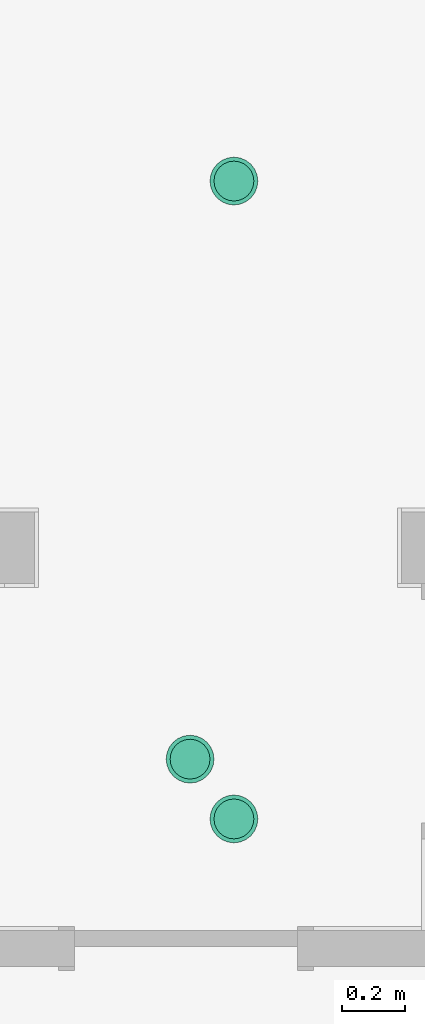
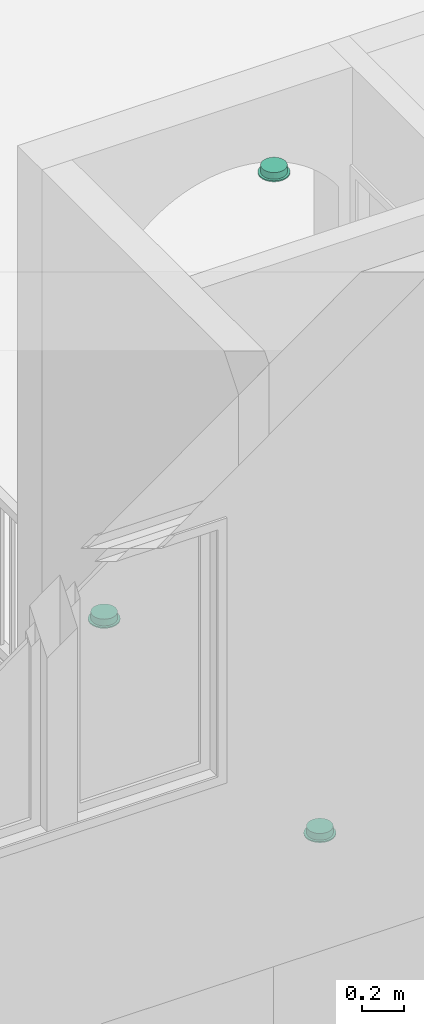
# One storey, part 42 of 81: 3 flow terminals.
"""IFC2X3 building model written with IfcOpenShell, lengths in feet."""

from ifc_helpers import new_model, entity, si_unit, converted_unit, derived_unit, direction, frame, origin, place, context, subcontext, project, spatial, faceted_brep, source, transform, mapped, material, material_list, type_object, type_shapes, element, save


model = new_model("IFC2X3")

# Units and contexts
model_context = context("Model", 3, precision=0.0001, world=origin(), true_north=direction((6.12303176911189e-17, 1.0)))
body_context = subcontext(model_context, "Body", "Model", "MODEL_VIEW")
ifc_project = project(units=[converted_unit("LENGTHUNIT", "FOOT", entity("IfcRatioMeasure", 0.3048), si_unit("LENGTHUNIT", "METRE"), dimensions=[1, 0, 0, 0, 0, 0, 0]), converted_unit("AREAUNIT", "SQUARE FOOT", entity("IfcRatioMeasure", 0.09290304), si_unit("AREAUNIT", "SQUARE_METRE"), dimensions=[2, 0, 0, 0, 0, 0, 0]), converted_unit("VOLUMEUNIT", "CUBIC FOOT", entity("IfcRatioMeasure", 0.028316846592), si_unit("VOLUMEUNIT", "CUBIC_METRE"), dimensions=[3, 0, 0, 0, 0, 0, 0]), converted_unit("PLANEANGLEUNIT", "DEGREE", entity("IfcRatioMeasure", 0.0174532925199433), si_unit("PLANEANGLEUNIT", "RADIAN"), dimensions=[0, 0, 0, 0, 0, 0, 0]), si_unit("MASSUNIT", "GRAM", prefix="KILO"), derived_unit("MASSDENSITYUNIT", [(si_unit("MASSUNIT", "GRAM", prefix="KILO"), 1), (si_unit("LENGTHUNIT", "METRE"), -3)]), derived_unit("MOMENTOFINERTIAUNIT", [(si_unit("LENGTHUNIT", "METRE"), 4)]), si_unit("TIMEUNIT", "SECOND"), si_unit("FREQUENCYUNIT", "HERTZ"), si_unit("THERMODYNAMICTEMPERATUREUNIT", "DEGREE_CELSIUS"), derived_unit("THERMALTRANSMITTANCEUNIT", [(si_unit("MASSUNIT", "GRAM", prefix="KILO"), 1), (si_unit("THERMODYNAMICTEMPERATUREUNIT", "KELVIN"), -1), (si_unit("TIMEUNIT", "SECOND"), -3)]), derived_unit("VOLUMETRICFLOWRATEUNIT", [(si_unit("LENGTHUNIT", "METRE"), 3), (si_unit("TIMEUNIT", "SECOND"), -1)]), si_unit("ELECTRICCURRENTUNIT", "AMPERE"), si_unit("ELECTRICVOLTAGEUNIT", "VOLT"), si_unit("POWERUNIT", "WATT"), si_unit("FORCEUNIT", "NEWTON"), si_unit("ILLUMINANCEUNIT", "LUX"), si_unit("LUMINOUSFLUXUNIT", "LUMEN"), si_unit("LUMINOUSINTENSITYUNIT", "CANDELA"), derived_unit("USERDEFINED", [(si_unit("MASSUNIT", "GRAM", prefix="KILO"), -1), (si_unit("LENGTHUNIT", "METRE"), -2), (si_unit("TIMEUNIT", "SECOND"), 3), (si_unit("LUMINOUSFLUXUNIT", "LUMEN"), 1)]), derived_unit("LINEARVELOCITYUNIT", [(si_unit("LENGTHUNIT", "METRE"), 1), (si_unit("TIMEUNIT", "SECOND"), -1)]), si_unit("PRESSUREUNIT", "PASCAL"), derived_unit("USERDEFINED", [(si_unit("LENGTHUNIT", "METRE"), -2), (si_unit("MASSUNIT", "GRAM", prefix="KILO"), 1), (si_unit("TIMEUNIT", "SECOND"), -2)]), derived_unit("LINEARFORCEUNIT", [(si_unit("MASSUNIT", "GRAM", prefix="KILO"), 1), (si_unit("LENGTHUNIT", "METRE"), 1), (si_unit("TIMEUNIT", "SECOND"), -2), (si_unit("LENGTHUNIT", "METRE"), -1)]), derived_unit("PLANARFORCEUNIT", [(si_unit("MASSUNIT", "GRAM", prefix="KILO"), 1), (si_unit("LENGTHUNIT", "METRE"), 1), (si_unit("TIMEUNIT", "SECOND"), -2), (si_unit("LENGTHUNIT", "METRE"), -2)])], contexts=[model_context])

# Site, building, storey
site_placement = place(None, origin())
site = spatial("IfcSite", under=ifc_project, at=site_placement, Name="Default", CompositionType="ELEMENT")
building_placement = place(site_placement, origin())
building = spatial("IfcBuilding", under=site, at=building_placement, CompositionType="ELEMENT")
storey_placement = place(building_placement, origin())
storey = spatial("IfcBuildingStorey", under=building, at=storey_placement, Name="First floor", CompositionType="ELEMENT", Elevation=0.0)

# Flow terminals
ifc_material_1 = material(Name="Default New Material")
ifc_material_2 = material(Name="Glass, White, High Luminance")
ifc_material_list_1 = material_list([ifc_material_1, ifc_material_2])
ifc_material_list_2 = material_list([ifc_material_1, ifc_material_2])
light_fixture_type = type_object("IfcLightFixtureType", Name="M_Recessed Lamp - Round - LED:Light 2", PredefinedType="NOTDEFINED", material=ifc_material_list_2)
shared_shape = source(origin(), body_context, "Body", "Brep", [
    faceted_brep([(-0.124999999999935, 0.216506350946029, 0.0208333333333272), (-0.176776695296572, 0.176776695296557, 0.0208333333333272), (-0.0833333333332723, 0.144337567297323, 0.0208333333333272), (-0.0431365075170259, 0.160987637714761, 0.0208333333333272), (-0.0647047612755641, 0.241481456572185, 0.0208333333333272), (-0.117851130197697, 0.117851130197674, 0.0208333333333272), (-0.216506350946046, 0.12499999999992, 0.0208333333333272), (-0.144337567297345, 0.0833333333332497, 0.0208333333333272), (-0.160987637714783, 0.0431365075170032, 0.0208333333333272), (-0.241481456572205, 0.0647047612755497, 0.0208333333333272), (-0.166666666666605, 0.0, 0.0208333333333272), (-0.249999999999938, 0.0, 0.0208333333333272), (-0.160987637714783, -0.0431365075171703, 0.0208333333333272), (-0.241481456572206, -0.0647047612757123, 0.0208333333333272), (-0.144337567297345, -0.0833333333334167, 0.0208333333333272), (-0.216506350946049, -0.125000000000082, 0.0208333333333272), (-0.117851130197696, -0.117851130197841, 0.0208333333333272), (-0.176776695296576, -0.176776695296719, 0.0208333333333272), (-0.0833333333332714, -0.14433756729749, 0.0208333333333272), (-0.12499999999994, -0.216506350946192, 0.0208333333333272), (-0.0431365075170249, -0.160987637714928, 0.0208333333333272), (-0.0647047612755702, -0.24148145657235, 0.0208333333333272), (0.0, -0.16666666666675, 0.0208333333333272), (0.0, -0.250000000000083, 0.0208333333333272), (0.0431365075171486, -0.160987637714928, 0.0208333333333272), (0.0647047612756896, -0.241481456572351, 0.0208333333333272), (0.0833333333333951, -0.144337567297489, 0.0208333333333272), (0.12500000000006, -0.216506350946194, 0.0208333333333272), (0.11785113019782, -0.117851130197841, 0.0208333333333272), (0.176776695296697, -0.176776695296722, 0.0208333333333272), (0.144337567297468, -0.0833333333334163, 0.0208333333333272), (0.21650635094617, -0.125000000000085, 0.0208333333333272), (0.241481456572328, -0.0647047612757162, 0.0208333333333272), (0.160987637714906, -0.0431365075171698, 0.0208333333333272), (0.250000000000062, 0.0, 0.0208333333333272), (0.166666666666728, 0.0, 0.0208333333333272), (0.241481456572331, 0.06470476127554, 0.0208333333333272), (0.160987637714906, 0.0431365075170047, 0.0208333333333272), (0.216506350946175, 0.124999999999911, 0.0208333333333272), (0.144337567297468, 0.0833333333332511, 0.0208333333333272), (0.176776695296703, 0.176776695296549, 0.0208333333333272), (0.117851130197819, 0.117851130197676, 0.0208333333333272), (0.125000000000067, 0.216506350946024, 0.0208333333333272), (0.0833333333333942, 0.144337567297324, 0.0208333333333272), (0.0647047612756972, 0.241481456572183, 0.0208333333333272), (0.0431365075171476, 0.160987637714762, 0.0208333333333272), (0.0, 0.249999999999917, 0.0208333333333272), (0.0, 0.166666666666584, 0.0208333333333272), (-0.12499999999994, -0.216506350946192, 0.0), (-0.176776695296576, -0.176776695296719, 0.0), (-0.0833333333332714, -0.14433756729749, 0.0), (-0.0431365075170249, -0.160987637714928, 0.0), (-0.0647047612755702, -0.24148145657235, 0.0), (-0.117851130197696, -0.117851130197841, 0.0), (-0.216506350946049, -0.125000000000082, 0.0), (-0.144337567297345, -0.0833333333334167, 0.0), (-0.160987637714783, -0.0431365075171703, 0.0), (-0.241481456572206, -0.0647047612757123, 0.0), (-0.166666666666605, 0.0, 0.0), (-0.249999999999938, 0.0, 0.0), (-0.160987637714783, 0.0431365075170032, 0.0), (-0.241481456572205, 0.0647047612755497, 0.0), (-0.144337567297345, 0.0833333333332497, 0.0), (-0.216506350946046, 0.12499999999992, 0.0), (-0.117851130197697, 0.117851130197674, 0.0), (-0.176776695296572, 0.176776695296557, 0.0), (-0.0833333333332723, 0.144337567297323, 0.0), (-0.124999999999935, 0.216506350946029, 0.0), (-0.0431365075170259, 0.160987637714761, 0.0), (-0.0647047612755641, 0.241481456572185, 0.0), (0.0, 0.166666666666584, 0.0), (0.0, 0.249999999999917, 0.0), (0.0431365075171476, 0.160987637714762, 0.0), (0.0647047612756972, 0.241481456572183, 0.0), (0.0833333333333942, 0.144337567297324, 0.0), (0.125000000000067, 0.216506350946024, 0.0), (0.117851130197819, 0.117851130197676, 0.0), (0.176776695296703, 0.176776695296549, 0.0), (0.144337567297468, 0.0833333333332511, 0.0), (0.216506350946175, 0.124999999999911, 0.0), (0.241481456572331, 0.06470476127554, 0.0), (0.160987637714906, 0.0431365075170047, 0.0), (0.250000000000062, 0.0, 0.0), (0.166666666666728, 0.0, 0.0), (0.241481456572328, -0.0647047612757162, 0.0), (0.160987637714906, -0.0431365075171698, 0.0), (0.21650635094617, -0.125000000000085, 0.0), (0.144337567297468, -0.0833333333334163, 0.0), (0.176776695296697, -0.176776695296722, 0.0), (0.11785113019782, -0.117851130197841, 0.0), (0.12500000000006, -0.216506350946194, 0.0), (0.0833333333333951, -0.144337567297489, 0.0), (0.0647047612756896, -0.241481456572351, 0.0), (0.0431365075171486, -0.160987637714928, 0.0), (0.0, -0.250000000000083, 0.0), (0.0, -0.16666666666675, 0.0)], [[[0, 1, 2]], [[0, 2, 3]], [[3, 4, 0]], [[2, 1, 5]], [[6, 5, 1]], [[7, 5, 6]], [[8, 7, 6]], [[8, 6, 9]], [[8, 9, 10]], [[10, 9, 11]], [[12, 10, 11]], [[12, 11, 13]], [[14, 12, 13]], [[14, 13, 15]], [[16, 14, 15]], [[15, 17, 16]], [[17, 18, 16]], [[18, 17, 19]], [[18, 19, 20]], [[21, 20, 19]], [[20, 21, 22]], [[22, 21, 23]], [[23, 24, 22]], [[24, 23, 25]], [[24, 25, 26]], [[27, 26, 25]], [[27, 28, 26]], [[27, 29, 28]], [[30, 28, 29]], [[31, 30, 29]], [[32, 30, 31]], [[33, 30, 32]], [[33, 32, 34]], [[34, 35, 33]], [[36, 35, 34]], [[36, 37, 35]], [[37, 36, 38]], [[39, 37, 38]], [[39, 38, 40]], [[39, 40, 41]], [[40, 42, 41]], [[41, 42, 43]], [[43, 42, 44]], [[44, 45, 43]], [[46, 45, 44]], [[4, 47, 46]], [[45, 46, 47]], [[4, 3, 47]], [[48, 49, 50]], [[48, 50, 51]], [[51, 52, 48]], [[50, 49, 53]], [[54, 53, 49]], [[55, 53, 54]], [[56, 55, 54]], [[56, 54, 57]], [[56, 57, 58]], [[58, 57, 59]], [[60, 58, 59]], [[60, 59, 61]], [[62, 60, 61]], [[62, 61, 63]], [[64, 62, 63]], [[63, 65, 64]], [[65, 66, 64]], [[66, 65, 67]], [[66, 67, 68]], [[69, 68, 67]], [[68, 69, 70]], [[70, 69, 71]], [[71, 72, 70]], [[72, 71, 73]], [[72, 73, 74]], [[75, 74, 73]], [[75, 76, 74]], [[75, 77, 76]], [[78, 76, 77]], [[79, 78, 77]], [[80, 78, 79]], [[81, 78, 80]], [[81, 80, 82]], [[82, 83, 81]], [[84, 83, 82]], [[84, 85, 83]], [[85, 84, 86]], [[87, 85, 86]], [[87, 86, 88]], [[87, 88, 89]], [[88, 90, 89]], [[89, 90, 91]], [[91, 90, 92]], [[92, 93, 91]], [[94, 93, 92]], [[52, 95, 94]], [[93, 94, 95]], [[52, 51, 95]], [[10, 58, 60, 8]], [[8, 60, 62, 7]], [[2, 5, 64, 66]], [[62, 64, 5, 7]], [[3, 2, 66, 68]], [[70, 47, 3, 68]], [[45, 72, 74, 43]], [[43, 74, 76, 41]], [[37, 39, 78, 81]], [[76, 78, 39, 41]], [[35, 37, 81, 83]], [[45, 47, 70, 72]], [[35, 83, 85, 33]], [[33, 85, 87, 30]], [[26, 28, 89, 91]], [[87, 89, 28, 30]], [[24, 26, 91, 93]], [[95, 22, 24, 93]], [[20, 51, 50, 18]], [[18, 50, 53, 16]], [[12, 14, 55, 56]], [[53, 55, 14, 16]], [[10, 12, 56, 58]], [[20, 22, 95, 51]], [[57, 13, 11, 59]], [[54, 15, 13, 57]], [[19, 17, 49, 48]], [[54, 49, 17, 15]], [[21, 19, 48, 52]], [[23, 21, 52, 94]], [[92, 25, 23, 94]], [[90, 27, 25, 92]], [[31, 29, 88, 86]], [[90, 88, 29, 27]], [[32, 31, 86, 84]], [[34, 32, 84, 82]], [[80, 36, 34, 82]], [[79, 38, 36, 80]], [[42, 40, 77, 75]], [[79, 77, 40, 38]], [[44, 42, 75, 73]], [[46, 44, 73, 71]], [[69, 4, 46, 71]], [[67, 0, 4, 69]], [[6, 1, 65, 63]], [[67, 65, 1, 0]], [[9, 6, 63, 61]], [[11, 9, 61, 59]]]),
    faceted_brep([(0.0431365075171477, -0.160987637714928, 0.0208333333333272), (0.0833333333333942, -0.14433756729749, 0.0208333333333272), (0.117851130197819, -0.117851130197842, 0.0208333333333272), (0.144337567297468, -0.0833333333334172, 0.0208333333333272), (0.160987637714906, -0.0431365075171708, 0.0208333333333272), (0.166666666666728, 0.0, 0.0208333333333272), (0.160987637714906, 0.0431365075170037, 0.0208333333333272), (0.144337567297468, 0.0833333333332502, 0.0208333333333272), (0.11785113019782, 0.117851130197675, 0.0208333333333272), (0.0833333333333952, 0.144337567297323, 0.0208333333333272), (0.0431365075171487, 0.160987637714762, 0.0208333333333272), (0.0, 0.166666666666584, 0.0208333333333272), (-0.0431365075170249, 0.160987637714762, 0.0208333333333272), (-0.0833333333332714, 0.144337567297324, 0.0208333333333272), (-0.117851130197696, 0.117851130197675, 0.0208333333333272), (-0.144337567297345, 0.0833333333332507, 0.0208333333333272), (-0.160987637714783, 0.0431365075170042, 0.0208333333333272), (-0.166666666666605, 0.0, 0.0208333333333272), (-0.160987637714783, -0.0431365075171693, 0.0208333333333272), (-0.144337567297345, -0.0833333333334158, 0.0208333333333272), (-0.117851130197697, -0.117851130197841, 0.0208333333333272), (-0.0833333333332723, -0.144337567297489, 0.0208333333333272), (-0.0431365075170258, -0.160987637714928, 0.0208333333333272), (0.0, -0.16666666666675, 0.0208333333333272), (0.0431365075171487, 0.160987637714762, 0.0), (0.0833333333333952, 0.144337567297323, 0.0), (0.11785113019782, 0.117851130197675, 0.0), (0.144337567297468, 0.0833333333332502, 0.0), (0.160987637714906, 0.0431365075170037, 0.0), (0.166666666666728, 0.0, 0.0), (0.160987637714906, -0.0431365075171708, 0.0), (0.144337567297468, -0.0833333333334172, 0.0), (0.117851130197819, -0.117851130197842, 0.0), (0.0833333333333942, -0.14433756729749, 0.0), (0.0431365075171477, -0.160987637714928, 0.0), (0.0, -0.16666666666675, 0.0), (-0.0431365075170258, -0.160987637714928, 0.0), (-0.0833333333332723, -0.144337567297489, 0.0), (-0.117851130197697, -0.117851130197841, 0.0), (-0.144337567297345, -0.0833333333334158, 0.0), (-0.160987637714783, -0.0431365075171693, 0.0), (-0.166666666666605, 0.0, 0.0), (-0.160987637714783, 0.0431365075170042, 0.0), (-0.144337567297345, 0.0833333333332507, 0.0), (-0.117851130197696, 0.117851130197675, 0.0), (-0.0833333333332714, 0.144337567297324, 0.0), (-0.0431365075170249, 0.160987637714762, 0.0), (0.0, 0.166666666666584, 0.0)], [[[0, 1, 2, 3, 4, 5, 6, 7, 8, 9, 10, 11, 12, 13, 14, 15, 16, 17, 18, 19, 20, 21, 22, 23]], [[24, 25, 26, 27, 28, 29, 30, 31, 32, 33, 34, 35, 36, 37, 38, 39, 40, 41, 42, 43, 44, 45, 46, 47]], [[40, 18, 17, 41]], [[39, 19, 18, 40]], [[21, 20, 38, 37]], [[39, 38, 20, 19]], [[22, 21, 37, 36]], [[23, 22, 36, 35]], [[34, 0, 23, 35]], [[33, 1, 0, 34]], [[3, 2, 32, 31]], [[33, 32, 2, 1]], [[4, 3, 31, 30]], [[5, 4, 30, 29]], [[28, 6, 5, 29]], [[27, 7, 6, 28]], [[9, 8, 26, 25]], [[27, 26, 8, 7]], [[10, 9, 25, 24]], [[11, 10, 24, 47]], [[46, 12, 11, 47]], [[45, 13, 12, 46]], [[15, 14, 44, 43]], [[45, 44, 14, 13]], [[16, 15, 43, 42]], [[17, 16, 42, 41]]]),
    faceted_brep([(0.0, -0.16666666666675, -0.104166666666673), (0.0431365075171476, -0.160987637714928, -0.104166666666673), (0.0833333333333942, -0.14433756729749, -0.104166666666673), (0.117851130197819, -0.117851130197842, -0.104166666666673), (0.144337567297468, -0.0833333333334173, -0.104166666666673), (0.160987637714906, -0.0431365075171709, -0.104166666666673), (0.166666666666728, 0.0, -0.104166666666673), (0.160987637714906, 0.0431365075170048, -0.104166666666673), (0.144337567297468, 0.0833333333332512, -0.104166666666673), (0.117851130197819, 0.117851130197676, -0.104166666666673), (0.0833333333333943, 0.144337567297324, -0.104166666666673), (0.0431365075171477, 0.160987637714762, -0.104166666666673), (0.0, 0.166666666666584, -0.104166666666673), (-0.0431365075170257, 0.160987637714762, -0.104166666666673), (-0.0833333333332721, 0.144337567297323, -0.104166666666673), (-0.117851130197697, 0.117851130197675, -0.104166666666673), (-0.144337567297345, 0.0833333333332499, -0.104166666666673), (-0.160987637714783, 0.0431365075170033, -0.104166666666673), (-0.166666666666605, 0.0, -0.104166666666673), (-0.160987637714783, -0.0431365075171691, -0.104166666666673), (-0.144337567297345, -0.0833333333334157, -0.104166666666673), (-0.117851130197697, -0.11785113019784, -0.104166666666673), (-0.0833333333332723, -0.144337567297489, -0.104166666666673), (-0.0431365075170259, -0.160987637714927, -0.104166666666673), (0.0, 0.20833333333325, -0.125000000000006), (0.0539206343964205, 0.201234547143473, -0.125000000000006), (0.104166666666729, 0.180421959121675, -0.125000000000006), (0.147313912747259, 0.147313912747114, -0.125000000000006), (0.18042195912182, 0.104166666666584, -0.125000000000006), (0.201234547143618, 0.0539206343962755, -0.125000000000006), (0.208333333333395, 0.0, -0.125000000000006), (0.201234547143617, -0.0539206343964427, -0.125000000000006), (0.180421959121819, -0.104166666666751, -0.125000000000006), (0.147313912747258, -0.147313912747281, -0.125000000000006), (0.104166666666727, -0.180421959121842, -0.125000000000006), (0.0539206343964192, -0.201234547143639, -0.125000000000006), (0.0, -0.208333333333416, -0.125000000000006), (-0.0539206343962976, -0.201234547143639, -0.125000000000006), (-0.104166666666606, -0.180421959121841, -0.125000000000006), (-0.147313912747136, -0.14731391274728, -0.125000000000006), (-0.180421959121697, -0.104166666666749, -0.125000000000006), (-0.201234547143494, -0.0539206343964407, -0.125000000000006), (-0.208333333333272, 0.0, -0.125000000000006), (-0.201234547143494, 0.0539206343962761, -0.125000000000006), (-0.180421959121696, 0.104166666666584, -0.125000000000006), (-0.147313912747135, 0.147313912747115, -0.125000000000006), (-0.104166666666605, 0.180421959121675, -0.125000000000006), (-0.0539206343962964, 0.201234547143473, -0.125000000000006), (-0.201234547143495, -0.0539206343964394, -0.104166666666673), (-0.201234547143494, -0.0539206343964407, 0.0), (-0.208333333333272, 0.0, 0.0), (-0.208333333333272, 0.0, -0.104166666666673), (-0.180421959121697, -0.104166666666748, -0.104166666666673), (-0.180421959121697, -0.104166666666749, 0.0), (-0.104166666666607, -0.18042195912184, -0.104166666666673), (-0.104166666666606, -0.180421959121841, 0.0), (-0.147313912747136, -0.14731391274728, 0.0), (-0.147313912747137, -0.147313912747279, -0.104166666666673), (-0.0539206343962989, -0.201234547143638, -0.104166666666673), (-0.0539206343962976, -0.201234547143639, 0.0), (0.0, -0.208333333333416, -0.104166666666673), (0.0, -0.208333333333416, 0.0), (0.053920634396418, -0.201234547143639, -0.104166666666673), (0.0539206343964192, -0.201234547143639, 0.0), (0.104166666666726, -0.180421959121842, -0.104166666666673), (0.104166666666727, -0.180421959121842, 0.0), (0.180421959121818, -0.104166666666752, -0.104166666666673), (0.180421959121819, -0.104166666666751, 0.0), (0.147313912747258, -0.147313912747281, 0.0), (0.147313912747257, -0.147313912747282, -0.104166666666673), (0.201234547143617, -0.0539206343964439, -0.104166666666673), (0.201234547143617, -0.0539206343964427, 0.0), (0.208333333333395, 0.0, -0.104166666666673), (0.208333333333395, 0.0, 0.0), (0.201234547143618, 0.0539206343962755, -0.104166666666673), (0.201234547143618, 0.0539206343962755, 0.0), (0.18042195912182, 0.104166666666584, -0.104166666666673), (0.18042195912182, 0.104166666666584, 0.0), (0.104166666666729, 0.180421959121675, -0.104166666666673), (0.104166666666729, 0.180421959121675, 0.0), (0.147313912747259, 0.147313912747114, 0.0), (0.147313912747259, 0.147313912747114, -0.104166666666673), (0.0539206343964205, 0.201234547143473, -0.104166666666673), (0.0539206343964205, 0.201234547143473, 0.0), (0.0, 0.20833333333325, -0.104166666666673), (0.0, 0.20833333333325, 0.0), (-0.0539206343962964, 0.201234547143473, -0.104166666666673), (-0.0539206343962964, 0.201234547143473, 0.0), (-0.104166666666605, 0.180421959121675, -0.104166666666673), (-0.104166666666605, 0.180421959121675, 0.0), (-0.180421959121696, 0.104166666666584, -0.104166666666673), (-0.180421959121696, 0.104166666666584, 0.0), (-0.147313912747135, 0.147313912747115, 0.0), (-0.147313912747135, 0.147313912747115, -0.104166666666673), (-0.201234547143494, 0.0539206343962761, -0.104166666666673), (-0.201234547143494, 0.0539206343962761, 0.0), (-0.0833333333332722, 0.144337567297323, 0.0), (-0.0431365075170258, 0.160987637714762, 0.0), (-0.117851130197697, 0.117851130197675, 0.0), (-0.144337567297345, 0.0833333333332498, 0.0), (-0.160987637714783, 0.0431365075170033, 0.0), (-0.166666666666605, 0.0, 0.0), (-0.160987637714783, -0.0431365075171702, 0.0), (-0.144337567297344, -0.0833333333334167, 0.0), (-0.117851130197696, -0.117851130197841, 0.0), (-0.0833333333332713, -0.14433756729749, 0.0), (-0.0431365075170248, -0.160987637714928, 0.0), (0.0, -0.16666666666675, 0.0), (0.0431365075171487, -0.160987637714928, 0.0), (0.0833333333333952, -0.144337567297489, 0.0), (0.11785113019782, -0.117851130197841, 0.0), (0.144337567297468, -0.0833333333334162, 0.0), (0.160987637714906, -0.0431365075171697, 0.0), (0.166666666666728, 0.0, 0.0), (0.160987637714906, 0.0431365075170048, 0.0), (0.144337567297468, 0.0833333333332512, 0.0), (0.117851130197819, 0.117851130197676, 0.0), (0.0833333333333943, 0.144337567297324, 0.0), (0.0431365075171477, 0.160987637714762, 0.0), (0.0, 0.166666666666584, 0.0)], [[[0, 1, 2, 3, 4, 5, 6, 7, 8, 9, 10, 11, 12, 13, 14, 15, 16, 17, 18, 19, 20, 21, 22, 23]], [[24, 25, 26, 27, 28, 29, 30, 31, 32, 33, 34, 35, 36, 37, 38, 39, 40, 41, 42, 43, 44, 45, 46, 47]], [[41, 48, 49, 50, 51, 42]], [[40, 52, 53, 49, 48, 41]], [[54, 55, 56, 57, 39, 38]], [[40, 39, 57, 56, 53, 52]], [[58, 59, 55, 54, 38, 37]], [[60, 61, 59, 58, 37, 36]], [[35, 62, 63, 61, 60, 36]], [[34, 64, 65, 63, 62, 35]], [[66, 67, 68, 69, 33, 32]], [[34, 33, 69, 68, 65, 64]], [[70, 71, 67, 66, 32, 31]], [[72, 73, 71, 70, 31, 30]], [[29, 74, 75, 73, 72, 30]], [[28, 76, 77, 75, 74, 29]], [[78, 79, 80, 81, 27, 26]], [[28, 27, 81, 80, 77, 76]], [[82, 83, 79, 78, 26, 25]], [[84, 85, 83, 82, 25, 24]], [[47, 86, 87, 85, 84, 24]], [[46, 88, 89, 87, 86, 47]], [[90, 91, 92, 93, 45, 44]], [[46, 45, 93, 92, 89, 88]], [[94, 95, 91, 90, 44, 43]], [[51, 50, 95, 94, 43, 42]], [[89, 92, 96]], [[89, 96, 97]], [[97, 87, 89]], [[96, 92, 98]], [[91, 98, 92]], [[99, 98, 91]], [[100, 99, 91]], [[100, 91, 95]], [[100, 95, 101]], [[101, 95, 50]], [[102, 101, 50]], [[102, 50, 49]], [[103, 102, 49]], [[103, 49, 53]], [[104, 103, 53]], [[53, 56, 104]], [[56, 105, 104]], [[105, 56, 55]], [[105, 55, 106]], [[59, 106, 55]], [[106, 59, 107]], [[107, 59, 61]], [[61, 108, 107]], [[108, 61, 63]], [[108, 63, 109]], [[65, 109, 63]], [[65, 110, 109]], [[65, 68, 110]], [[111, 110, 68]], [[67, 111, 68]], [[71, 111, 67]], [[112, 111, 71]], [[112, 71, 73]], [[73, 113, 112]], [[75, 113, 73]], [[75, 114, 113]], [[114, 75, 77]], [[115, 114, 77]], [[115, 77, 80]], [[115, 80, 116]], [[80, 79, 116]], [[116, 79, 117]], [[117, 79, 83]], [[83, 118, 117]], [[85, 118, 83]], [[87, 119, 85]], [[85, 119, 118]], [[87, 97, 119]], [[113, 6, 5, 112]], [[112, 5, 4, 111]], [[109, 110, 3, 2]], [[4, 3, 110, 111]], [[108, 109, 2, 1]], [[0, 107, 108, 1]], [[104, 105, 22, 21]], [[23, 22, 105, 106]], [[102, 103, 20, 19]], [[104, 21, 20, 103]], [[102, 19, 18, 101]], [[0, 23, 106, 107]], [[101, 18, 17, 100]], [[100, 17, 16, 99]], [[96, 98, 15, 14]], [[16, 15, 98, 99]], [[97, 96, 14, 13]], [[12, 119, 97, 13]], [[118, 11, 10, 117]], [[117, 10, 9, 116]], [[114, 115, 8, 7]], [[9, 8, 115, 116]], [[113, 114, 7, 6]], [[118, 119, 12, 11]]]),
])
type_shapes(light_fixture_type, [shared_shape])
flow_terminal_1_placement = place(storey_placement, frame((23.9166666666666, 10.8334207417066, 8.41666666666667), z_axis=(0.0, 0.0, -1.0), x_axis=(1.0, 0.0, 0.0)))
element("IfcFlowTerminal", 1, at=flow_terminal_1_placement, inside=storey, type_object=light_fixture_type, material=ifc_material_list_1, Name="M_Recessed Lamp - Round - LED:Light 2", ObjectType="M_Recessed Lamp - Round - LED:Light 2", context=body_context, shape_type="MappedRepresentation", body=[
    mapped(shared_shape, transform((0.0, 0.0, 0.0), scale=1.0)),
])
ifc_material_list_3 = material_list([ifc_material_1, ifc_material_2])
flow_terminal_2_placement = place(storey_placement, frame((23.9166666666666, 4.1667540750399, 8.41666666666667), z_axis=(0.0, 0.0, -1.0), x_axis=(1.0, 0.0, 0.0)))
element("IfcFlowTerminal", 2, at=flow_terminal_2_placement, inside=storey, type_object=light_fixture_type, material=ifc_material_list_3, Name="M_Recessed Lamp - Round - LED:Light 2", ObjectType="M_Recessed Lamp - Round - LED:Light 2", context=body_context, shape_type="MappedRepresentation", body=[
    mapped(shared_shape, transform((0.0, 0.0, 0.0), scale=1.0)),
])
ifc_material_list_4 = material_list([ifc_material_1, ifc_material_2])
flow_terminal_3_placement = place(storey_placement, frame((23.4583333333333, 4.7916666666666, 20.6666666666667), z_axis=(0.0, 0.0, -1.0), x_axis=(1.0, -1.36114791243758e-06, 0.0)))
element("IfcFlowTerminal", 3, at=flow_terminal_3_placement, inside=storey, type_object=light_fixture_type, material=ifc_material_list_4, Name="M_Recessed Lamp - Round - LED:Light 2", ObjectType="M_Recessed Lamp - Round - LED:Light 2", context=body_context, shape_type="MappedRepresentation", body=[
    mapped(shared_shape, transform((0.0, 0.0, 0.0), scale=1.0)),
])

save(model, "model.ifc")
